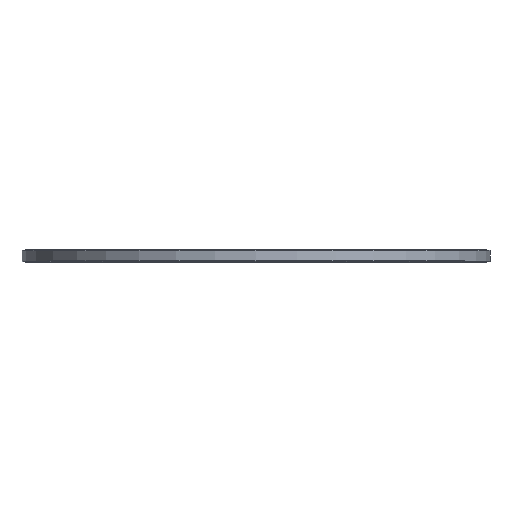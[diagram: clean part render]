
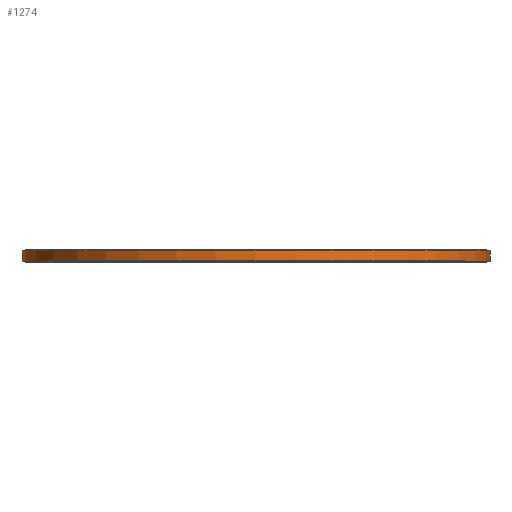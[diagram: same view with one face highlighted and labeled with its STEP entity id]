
A CAD part, top view. The second image highlights one B-rep face of the part: STEP entity #1274.
In plain terms, the highlighted cylindrical face has radius 587.5 mm (diameter 1175 mm), a full revolution.
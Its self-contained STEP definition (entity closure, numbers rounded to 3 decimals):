
#246=ORIENTED_EDGE('',*,*,#432,.T.);
#247=ORIENTED_EDGE('',*,*,#433,.T.);
#432=EDGE_CURVE('',#552,#552,#672,.F.);
#433=EDGE_CURVE('',#553,#553,#673,.T.);
#552=VERTEX_POINT('',#2240);
#553=VERTEX_POINT('',#2242);
#672=CIRCLE('',#1490,587.5);
#673=CIRCLE('',#1491,587.5);
#846=EDGE_LOOP('',(#246));
#847=EDGE_LOOP('',(#247));
#1086=FACE_BOUND('',#846,.T.);
#1087=FACE_BOUND('',#847,.T.);
#1190=CYLINDRICAL_SURFACE('',#1489,587.5);
#1274=ADVANCED_FACE('',(#1086,#1087),#1190,.T.);
#1489=AXIS2_PLACEMENT_3D('',#2238,#1895,#1896);
#1490=AXIS2_PLACEMENT_3D('',#2239,#1897,#1898);
#1491=AXIS2_PLACEMENT_3D('',#2241,#1899,#1900);
#1895=DIRECTION('',(0.,-1.,0.));
#1896=DIRECTION('',(0.,0.,-1.));
#1897=DIRECTION('',(0.,1.,0.));
#1898=DIRECTION('',(0.,0.,1.));
#1899=DIRECTION('',(0.,1.,0.));
#1900=DIRECTION('',(0.,0.,1.));
#2238=CARTESIAN_POINT('',(0.,30.,0.));
#2239=CARTESIAN_POINT('',(0.,28.,0.));
#2240=CARTESIAN_POINT('',(0.,28.,587.5));
#2241=CARTESIAN_POINT('',(0.,2.,0.));
#2242=CARTESIAN_POINT('',(0.,2.,587.5));
